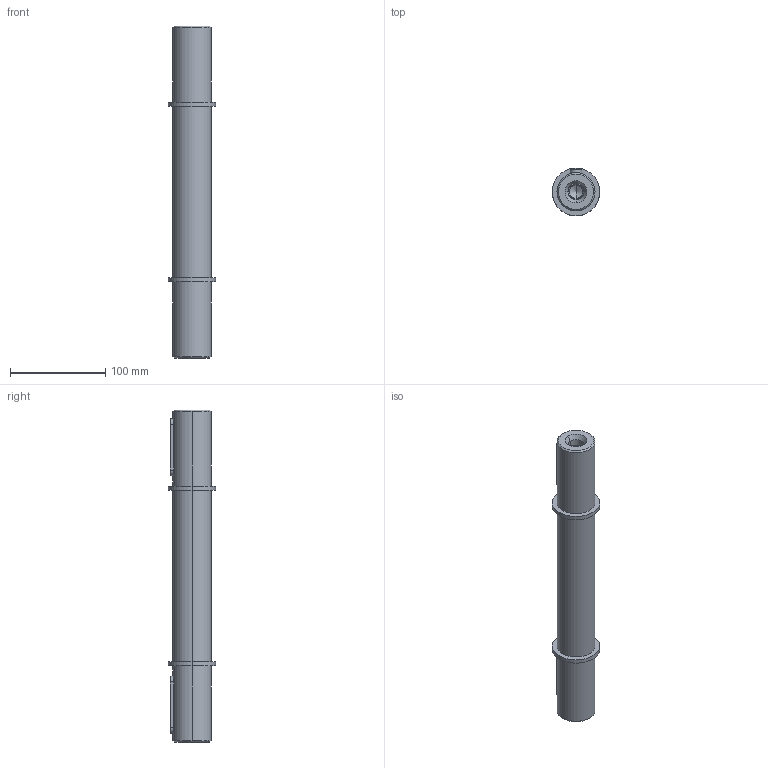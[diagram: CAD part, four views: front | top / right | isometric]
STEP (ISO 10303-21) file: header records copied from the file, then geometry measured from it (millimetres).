
FILE_DESCRIPTION(/* description */ (''),/* implementation_level */ '2;1');
FILE_NAME(/* name */ '5_ALBERO LENTO BISPORGENTE B083',/* time_stamp */ '2025-10-22T11:08:56+02:00',/* author */ (''),/* organization */ (''),/* preprocessor_version */ 'ST-DEVELOPER v19.2',/* originating_system */ 'Rhino 8.23',/* authorisation */ '');
FILE_SCHEMA (('CONFIG_CONTROL_DESIGN'));
Length unit declared in the file: millimetre
Products named in the file (2): Document; Albero 40x80-(832)
Bounding box: 50 x 50 x 348.5 mm (x, y, z)
Volume: 431521.1 mm3; surface area: 54135.2 mm2
Topology: 1 solids, 1 shells, 52 faces, 111 edges, 67 vertices
Faces by surface type: cylinder 22, bspline 16, plane 14
Entity records: 1737 total; most frequent: CARTESIAN_POINT 562, ORIENTED_EDGE 214, DIRECTION 150, EDGE_CURVE 107, AXIS2_PLACEMENT_3D 93, VERTEX_POINT 67, EDGE_LOOP 62, B_SPLINE_CURVE_WITH_KNOTS 54
